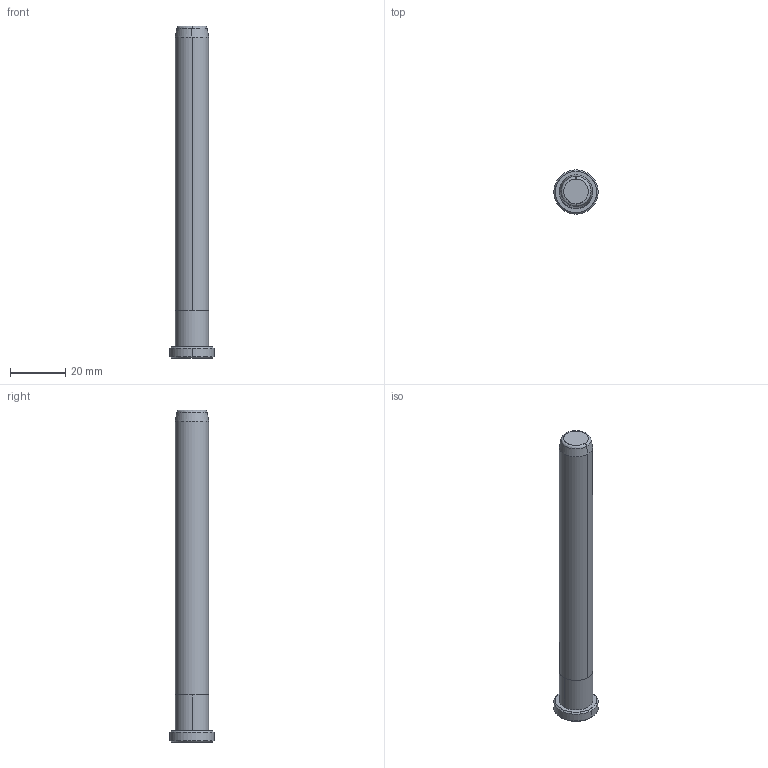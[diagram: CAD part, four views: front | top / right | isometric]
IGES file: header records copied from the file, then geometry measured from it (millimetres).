
Start section: START RECORD GO HERE.
Global section: file name: B82812120.igs; native system: DASSAULT SYSTEMES CATIA V5 R20 - www.3ds.com; preprocessor: CATIA Version 5 Release 20 ; author: Utente; organization: NB04-ASUS; date: 20200419.173822; units: millimetre
Bounding box: 16 x 16 x 120 mm (x, y, z)
Surface area: 4905.6 mm2 (no closed solid volume)
Topology: 0 solids, 0 shells, 20 faces, 80 edges, 80 vertices
Faces by surface type: revolution 16, plane 4
